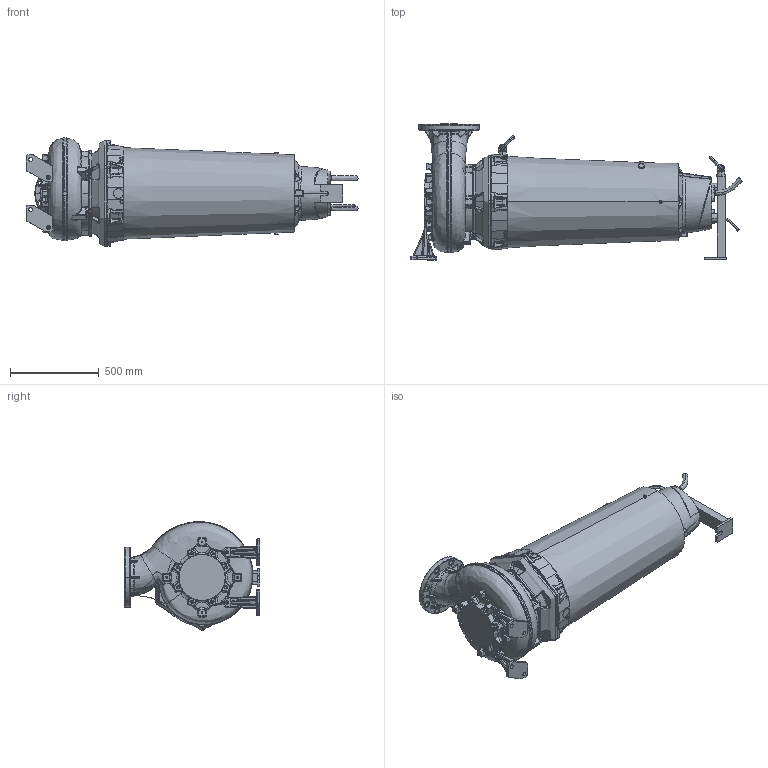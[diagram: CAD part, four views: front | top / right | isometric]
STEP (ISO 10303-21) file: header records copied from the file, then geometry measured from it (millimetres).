
FILE_DESCRIPTION (( 'STEP AP214' ), '1' );
FILE_NAME ('PE5_XFP200J-CH2_DRY HA_B_NG2.STEP', '2017-03-15T07:40:57', ( '' ), ( '' ), 'SwSTEP 2.0', 'SolidWorks 2017', '' );
FILE_SCHEMA (( 'AUTOMOTIVE_DESIGN' ));
Length unit declared in the file: millimetre
Products named in the file (1): PE5_XFP200J-CH2_DRY HA_B_NG2
Bounding box: 1872.38 x 766.42 x 611.55 mm (x, y, z)
Volume: 290171965.2 mm3; surface area: 3649345.9 mm2
Topology: 6 solids, 6 shells, 2594 faces, 6494 edges, 3843 vertices
Faces by surface type: bspline 945, cylinder 527, plane 490, torus 296, cone 292, sphere 44
Entity records: 180120 total; most frequent: CARTESIAN_POINT 98006, ORIENTED_EDGE 12768, DIRECTION 9300, EDGE_CURVE 6384, AXIS2_PLACEMENT_3D 3886, VERTEX_POINT 3839, EDGE_LOOP 2671, UNCERTAINTY_MEASURE_WITH_UNIT 2602
